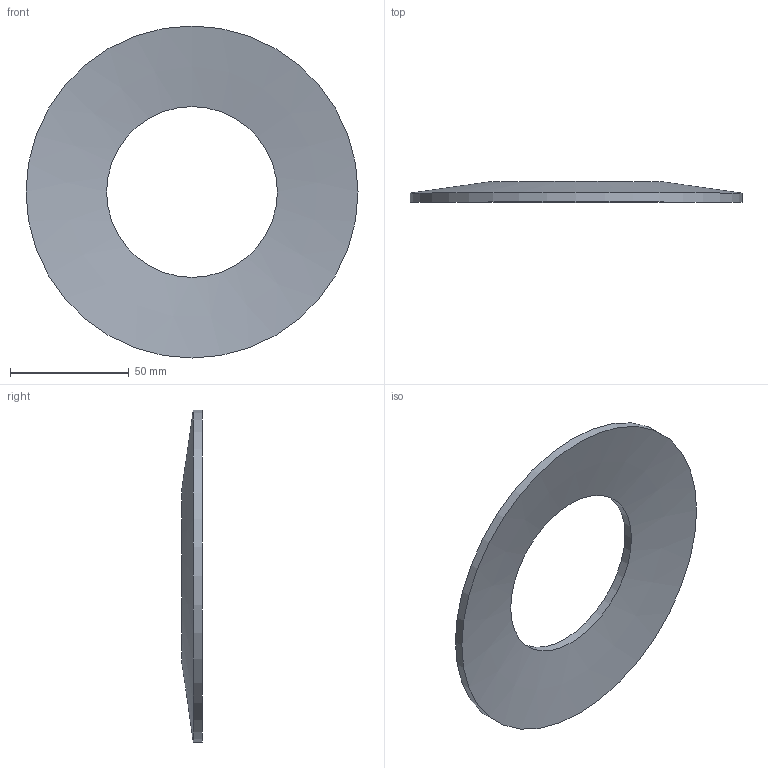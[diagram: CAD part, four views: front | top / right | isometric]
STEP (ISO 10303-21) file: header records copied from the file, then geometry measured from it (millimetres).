
FILE_DESCRIPTION(/* description */ ('17186N'),/* implementation_level */ '2;1');
FILE_NAME(/* name */ 'ST.1400.0720.0380.step',/* time_stamp */ '2026-09-18T10:35:09+02:00',/* author */ ('impex-ready.pl'),/* organization */ ('ST.1400.0720.0380'),/* preprocessor_version */ 'ST-DEVELOPER v20.1',/* originating_system */ 'Autodesk Inventor 2026',/* authorisation */ 'Ugiecie 0,75 h0 = 3.68');
FILE_SCHEMA (('AUTOMOTIVE_DESIGN { 1 0 10303 214 3 1 1 }'));
Length unit declared in the file: millimetre
Products named in the file (1): ST.1400.0720.0380
Bounding box: 140 x 8.7 x 140 mm (x, y, z)
Volume: 43462.3 mm3; surface area: 25431.5 mm2
Topology: 1 solids, 1 shells, 4 faces, 8 edges, 4 vertices
Faces by surface type: cone 2, cylinder 2
Full cylindrical faces by diameter (mm): 72 x1, 140 x1
Entity records: 151 total; most frequent: DIRECTION 22, CARTESIAN_POINT 17, ORIENTED_EDGE 16, AXIS2_PLACEMENT_3D 9, EDGE_CURVE 8, FACE_OUTER_BOUND 4, EDGE_LOOP 4, LINE 4
